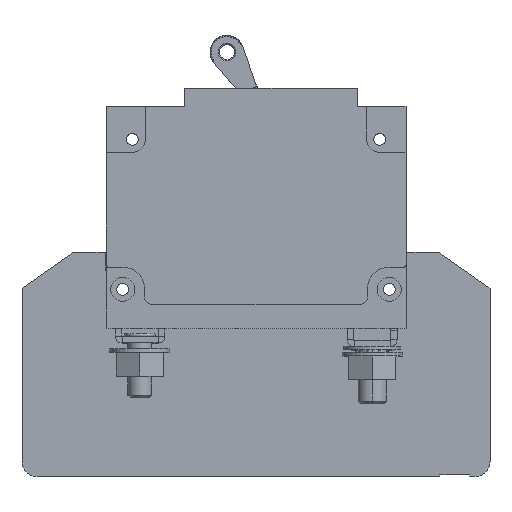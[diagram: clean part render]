
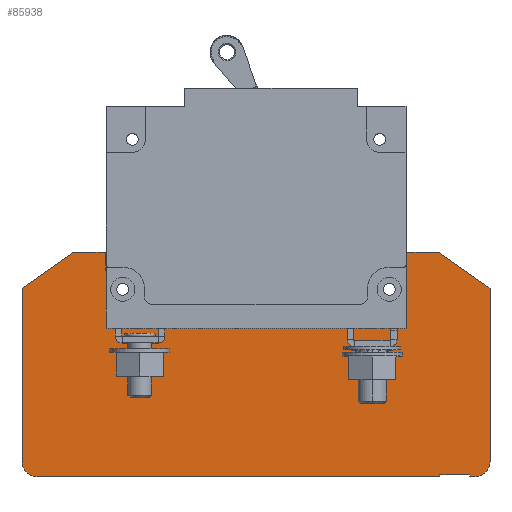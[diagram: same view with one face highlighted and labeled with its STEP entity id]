
A CAD part, top view. The second image highlights one B-rep face of the part: STEP entity #85938.
In plain terms, the highlighted planar face has unit normal (0, 0, 1).
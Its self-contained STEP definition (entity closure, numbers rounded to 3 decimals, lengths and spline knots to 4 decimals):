
#32857=DIRECTION('',(0.,-1.,0.));
#32858=VECTOR('',#32857,0.015);
#32859=CARTESIAN_POINT('',(1.657,-2.885,-1.086));
#32860=LINE('',#32859,#32858);
#32869=DIRECTION('',(1.,0.,0.));
#32870=VECTOR('',#32869,0.25);
#32871=CARTESIAN_POINT('',(1.407,-2.885,-1.086));
#32872=LINE('',#32871,#32870);
#32921=CARTESIAN_POINT('',(1.7,-2.775,-1.086));
#32922=DIRECTION('',(0.,0.,-1.));
#32923=DIRECTION('',(1.,0.,0.));
#32924=AXIS2_PLACEMENT_3D('',#32921,#32922,#32923);
#32926=DIRECTION('',(-1.,0.,0.));
#32927=VECTOR('',#32926,0.043);
#32928=CARTESIAN_POINT('',(1.7,-2.9,-1.086));
#32929=LINE('',#32928,#32927);
#32930=DIRECTION('',(0.,-1.,0.));
#32931=VECTOR('',#32930,0.015);
#32932=CARTESIAN_POINT('',(1.407,-2.885,-1.086));
#32933=LINE('',#32932,#32931);
#32934=DIRECTION('',(-1.,0.,0.));
#32935=VECTOR('',#32934,3.357);
#32936=CARTESIAN_POINT('',(1.407,-2.9,-1.086));
#32937=LINE('',#32936,#32935);
#32938=CARTESIAN_POINT('',(-1.95,-2.775,-1.086));
#32939=DIRECTION('',(0.,0.,-1.));
#32940=DIRECTION('',(0.,-1.,0.));
#32941=AXIS2_PLACEMENT_3D('',#32938,#32939,#32940);
#32943=DIRECTION('',(0.,1.,0.));
#32944=VECTOR('',#32943,1.445);
#32945=CARTESIAN_POINT('',(-2.075,-2.775,-1.086));
#32946=LINE('',#32945,#32944);
#32947=DIRECTION('',(0.819,0.574,0.));
#32948=VECTOR('',#32947,0.523);
#32949=CARTESIAN_POINT('',(-2.075,-1.33,-1.086));
#32950=LINE('',#32949,#32948);
#32951=DIRECTION('',(1.,0.,0.));
#32952=VECTOR('',#32951,0.2651);
#32953=CARTESIAN_POINT('',(-1.6466,-1.03,-1.086));
#32954=LINE('',#32953,#32952);
#32955=DIRECTION('',(0.,-1.,0.));
#32956=VECTOR('',#32955,0.15);
#32957=CARTESIAN_POINT('',(-1.3815,-1.03,-1.086));
#32958=LINE('',#32957,#32956);
#32959=DIRECTION('',(1.,0.,0.));
#32960=VECTOR('',#32959,0.1565);
#32961=CARTESIAN_POINT('',(-1.3815,-1.18,-1.086));
#32962=LINE('',#32961,#32960);
#32963=CARTESIAN_POINT('',(-1.225,-1.34,-1.086));
#32964=DIRECTION('',(0.,0.,-1.));
#32965=DIRECTION('',(0.,1.,0.));
#32966=AXIS2_PLACEMENT_3D('',#32963,#32964,#32965);
#32968=DIRECTION('',(0.,-1.,0.));
#32969=VECTOR('',#32968,0.088);
#32970=CARTESIAN_POINT('',(-1.065,-1.34,-1.086));
#32971=LINE('',#32970,#32969);
#32972=CARTESIAN_POINT('',(-1.003,-1.428,-1.086));
#32973=DIRECTION('',(0.,0.,1.));
#32974=DIRECTION('',(-1.,0.,0.));
#32975=AXIS2_PLACEMENT_3D('',#32972,#32973,#32974);
#32977=DIRECTION('',(1.,0.,0.));
#32978=VECTOR('',#32977,1.756);
#32979=CARTESIAN_POINT('',(-1.003,-1.49,-1.086));
#32980=LINE('',#32979,#32978);
#32981=CARTESIAN_POINT('',(0.753,-1.428,-1.086));
#32982=DIRECTION('',(0.,0.,1.));
#32983=DIRECTION('',(0.,-1.,0.));
#32984=AXIS2_PLACEMENT_3D('',#32981,#32982,#32983);
#32986=DIRECTION('',(0.,1.,0.));
#32987=VECTOR('',#32986,0.088);
#32988=CARTESIAN_POINT('',(0.815,-1.428,-1.086));
#32989=LINE('',#32988,#32987);
#32990=CARTESIAN_POINT('',(0.975,-1.34,-1.086));
#32991=DIRECTION('',(0.,0.,-1.));
#32992=DIRECTION('',(-1.,0.,0.));
#32993=AXIS2_PLACEMENT_3D('',#32990,#32991,#32992);
#32995=DIRECTION('',(1.,0.,0.));
#32996=VECTOR('',#32995,0.1565);
#32997=CARTESIAN_POINT('',(0.975,-1.18,-1.086));
#32998=LINE('',#32997,#32996);
#32999=DIRECTION('',(0.,1.,0.));
#33000=VECTOR('',#32999,0.15);
#33001=CARTESIAN_POINT('',(1.1315,-1.18,-1.086));
#33002=LINE('',#33001,#33000);
#33003=DIRECTION('',(1.,0.,0.));
#33004=VECTOR('',#33003,0.2651);
#33005=CARTESIAN_POINT('',(1.1315,-1.03,-1.086));
#33006=LINE('',#33005,#33004);
#33007=DIRECTION('',(0.819,-0.574,0.));
#33008=VECTOR('',#33007,0.523);
#33009=CARTESIAN_POINT('',(1.3966,-1.03,-1.086));
#33010=LINE('',#33009,#33008);
#33011=DIRECTION('',(0.,-1.,0.));
#33012=VECTOR('',#33011,1.445);
#33013=CARTESIAN_POINT('',(1.825,-1.33,-1.086));
#33014=LINE('',#33013,#33012);
#33015=CARTESIAN_POINT('',(0.985,-1.34,-1.086));
#33016=DIRECTION('',(0.,0.,1.));
#33017=DIRECTION('',(1.,0.,0.));
#33018=AXIS2_PLACEMENT_3D('',#33015,#33016,#33017);
#33020=CARTESIAN_POINT('',(0.985,-1.34,-1.086));
#33021=DIRECTION('',(0.,0.,1.));
#33022=DIRECTION('',(-1.,0.,0.));
#33023=AXIS2_PLACEMENT_3D('',#33020,#33021,#33022);
#33025=CARTESIAN_POINT('',(-1.235,-1.34,-1.086));
#33026=DIRECTION('',(0.,0.,1.));
#33027=DIRECTION('',(1.,0.,0.));
#33028=AXIS2_PLACEMENT_3D('',#33025,#33026,#33027);
#33030=CARTESIAN_POINT('',(-1.235,-1.34,-1.086));
#33031=DIRECTION('',(0.,0.,1.));
#33032=DIRECTION('',(-1.,0.,0.));
#33033=AXIS2_PLACEMENT_3D('',#33030,#33031,#33032);
#38388=CARTESIAN_POINT('',(-1.3815,-1.18,-1.086));
#38389=VERTEX_POINT('',#38388);
#38390=CARTESIAN_POINT('',(-1.3815,-1.03,-1.086));
#38391=VERTEX_POINT('',#38390);
#38396=CARTESIAN_POINT('',(-1.6466,-1.03,-1.086));
#38397=VERTEX_POINT('',#38396);
#38400=CARTESIAN_POINT('',(1.825,-2.775,-1.086));
#38401=CARTESIAN_POINT('',(1.7,-2.9,-1.086));
#38402=VERTEX_POINT('',#38400);
#38403=VERTEX_POINT('',#38401);
#38404=CARTESIAN_POINT('',(1.657,-2.9,-1.086));
#38405=VERTEX_POINT('',#38404);
#38406=CARTESIAN_POINT('',(1.657,-2.885,-1.086));
#38407=VERTEX_POINT('',#38406);
#38408=CARTESIAN_POINT('',(1.407,-2.885,-1.086));
#38409=VERTEX_POINT('',#38408);
#38410=CARTESIAN_POINT('',(1.407,-2.9,-1.086));
#38411=VERTEX_POINT('',#38410);
#38412=CARTESIAN_POINT('',(-1.95,-2.9,-1.086));
#38413=VERTEX_POINT('',#38412);
#38414=CARTESIAN_POINT('',(-2.075,-2.775,-1.086));
#38415=VERTEX_POINT('',#38414);
#38416=CARTESIAN_POINT('',(-2.075,-1.33,-1.086));
#38417=VERTEX_POINT('',#38416);
#38418=CARTESIAN_POINT('',(-1.225,-1.18,-1.086));
#38419=VERTEX_POINT('',#38418);
#38420=CARTESIAN_POINT('',(-1.065,-1.34,-1.086));
#38421=VERTEX_POINT('',#38420);
#38422=CARTESIAN_POINT('',(-1.065,-1.428,-1.086));
#38423=VERTEX_POINT('',#38422);
#38424=CARTESIAN_POINT('',(-1.003,-1.49,-1.086));
#38425=VERTEX_POINT('',#38424);
#38426=CARTESIAN_POINT('',(0.753,-1.49,-1.086));
#38427=VERTEX_POINT('',#38426);
#38428=CARTESIAN_POINT('',(0.815,-1.428,-1.086));
#38429=VERTEX_POINT('',#38428);
#38430=CARTESIAN_POINT('',(0.815,-1.34,-1.086));
#38431=VERTEX_POINT('',#38430);
#38432=CARTESIAN_POINT('',(0.975,-1.18,-1.086));
#38433=VERTEX_POINT('',#38432);
#38434=CARTESIAN_POINT('',(1.1315,-1.18,-1.086));
#38435=VERTEX_POINT('',#38434);
#38436=CARTESIAN_POINT('',(1.1315,-1.03,-1.086));
#38437=VERTEX_POINT('',#38436);
#38438=CARTESIAN_POINT('',(1.3966,-1.03,-1.086));
#38439=VERTEX_POINT('',#38438);
#38440=CARTESIAN_POINT('',(1.825,-1.33,-1.086));
#38441=VERTEX_POINT('',#38440);
#38442=CARTESIAN_POINT('',(1.0825,-1.34,-1.086));
#38443=CARTESIAN_POINT('',(0.8875,-1.34,-1.086));
#38444=VERTEX_POINT('',#38442);
#38445=VERTEX_POINT('',#38443);
#38446=CARTESIAN_POINT('',(-1.1375,-1.34,-1.086));
#38447=CARTESIAN_POINT('',(-1.3325,-1.34,-1.086));
#38448=VERTEX_POINT('',#38446);
#38449=VERTEX_POINT('',#38447);
#85888=CARTESIAN_POINT('',(-2.075,-2.9,-1.086));
#85889=DIRECTION('',(0.,0.,1.));
#85890=DIRECTION('',(1.,0.,0.));
#85891=AXIS2_PLACEMENT_3D('',#85888,#85889,#85890);
#85892=PLANE('',#85891);
#85893=ORIENTED_EDGE('',*,*,#85755,.T.);
#85894=ORIENTED_EDGE('',*,*,#85769,.T.);
#85895=ORIENTED_EDGE('',*,*,#85782,.F.);
#85896=ORIENTED_EDGE('',*,*,#85796,.F.);
#85897=ORIENTED_EDGE('',*,*,#85810,.T.);
#85898=ORIENTED_EDGE('',*,*,#85823,.T.);
#85899=ORIENTED_EDGE('',*,*,#85839,.T.);
#85900=ORIENTED_EDGE('',*,*,#85853,.T.);
#85901=ORIENTED_EDGE('',*,*,#85866,.T.);
#85902=ORIENTED_EDGE('',*,*,#85879,.T.);
#85903=ORIENTED_EDGE('',*,*,#85617,.T.);
#85904=ORIENTED_EDGE('',*,*,#85359,.T.);
#85906=ORIENTED_EDGE('',*,*,#85905,.T.);
#85908=ORIENTED_EDGE('',*,*,#85907,.T.);
#85910=ORIENTED_EDGE('',*,*,#85909,.T.);
#85912=ORIENTED_EDGE('',*,*,#85911,.T.);
#85914=ORIENTED_EDGE('',*,*,#85913,.T.);
#85916=ORIENTED_EDGE('',*,*,#85915,.T.);
#85918=ORIENTED_EDGE('',*,*,#85917,.T.);
#85919=ORIENTED_EDGE('',*,*,#85429,.T.);
#85920=ORIENTED_EDGE('',*,*,#85693,.T.);
#85921=ORIENTED_EDGE('',*,*,#85712,.T.);
#85922=ORIENTED_EDGE('',*,*,#85726,.T.);
#85923=ORIENTED_EDGE('',*,*,#85739,.T.);
#85924=EDGE_LOOP('',(#85893,#85894,#85895,#85896,#85897,#85898,#85899,#85900,
#85901,#85902,#85903,#85904,#85906,#85908,#85910,#85912,#85914,#85916,#85918,
#85919,#85920,#85921,#85922,#85923));
#85925=FACE_OUTER_BOUND('',#85924,.F.);
#85927=ORIENTED_EDGE('',*,*,#85926,.T.);
#85929=ORIENTED_EDGE('',*,*,#85928,.T.);
#85930=EDGE_LOOP('',(#85927,#85929));
#85931=FACE_BOUND('',#85930,.F.);
#85933=ORIENTED_EDGE('',*,*,#85932,.T.);
#85935=ORIENTED_EDGE('',*,*,#85934,.T.);
#85936=EDGE_LOOP('',(#85933,#85935));
#85937=FACE_BOUND('',#85936,.F.);
#85938=ADVANCED_FACE('',(#85925,#85931,#85937),#85892,.T.);
#32925=CIRCLE('',#32924,0.125);
#32942=CIRCLE('',#32941,0.125);
#32967=CIRCLE('',#32966,0.16);
#32976=CIRCLE('',#32975,0.062);
#32985=CIRCLE('',#32984,0.062);
#32994=CIRCLE('',#32993,0.16);
#33019=CIRCLE('',#33018,0.0975);
#33024=CIRCLE('',#33023,0.0975);
#33029=CIRCLE('',#33028,0.0975);
#33034=CIRCLE('',#33033,0.0975);
#85359=EDGE_CURVE('',#38389,#38419,#32962,.T.);
#85429=EDGE_CURVE('',#38433,#38435,#32998,.T.);
#85617=EDGE_CURVE('',#38391,#38389,#32958,.T.);
#85693=EDGE_CURVE('',#38435,#38437,#33002,.T.);
#85712=EDGE_CURVE('',#38437,#38439,#33006,.T.);
#85726=EDGE_CURVE('',#38439,#38441,#33010,.T.);
#85739=EDGE_CURVE('',#38441,#38402,#33014,.T.);
#85755=EDGE_CURVE('',#38402,#38403,#32925,.T.);
#85769=EDGE_CURVE('',#38403,#38405,#32929,.T.);
#85782=EDGE_CURVE('',#38407,#38405,#32860,.T.);
#85796=EDGE_CURVE('',#38409,#38407,#32872,.T.);
#85810=EDGE_CURVE('',#38409,#38411,#32933,.T.);
#85823=EDGE_CURVE('',#38411,#38413,#32937,.T.);
#85839=EDGE_CURVE('',#38413,#38415,#32942,.T.);
#85853=EDGE_CURVE('',#38415,#38417,#32946,.T.);
#85866=EDGE_CURVE('',#38417,#38397,#32950,.T.);
#85879=EDGE_CURVE('',#38397,#38391,#32954,.T.);
#85905=EDGE_CURVE('',#38419,#38421,#32967,.T.);
#85907=EDGE_CURVE('',#38421,#38423,#32971,.T.);
#85909=EDGE_CURVE('',#38423,#38425,#32976,.T.);
#85911=EDGE_CURVE('',#38425,#38427,#32980,.T.);
#85913=EDGE_CURVE('',#38427,#38429,#32985,.T.);
#85915=EDGE_CURVE('',#38429,#38431,#32989,.T.);
#85917=EDGE_CURVE('',#38431,#38433,#32994,.T.);
#85926=EDGE_CURVE('',#38444,#38445,#33019,.T.);
#85928=EDGE_CURVE('',#38445,#38444,#33024,.T.);
#85932=EDGE_CURVE('',#38448,#38449,#33029,.T.);
#85934=EDGE_CURVE('',#38449,#38448,#33034,.T.);
